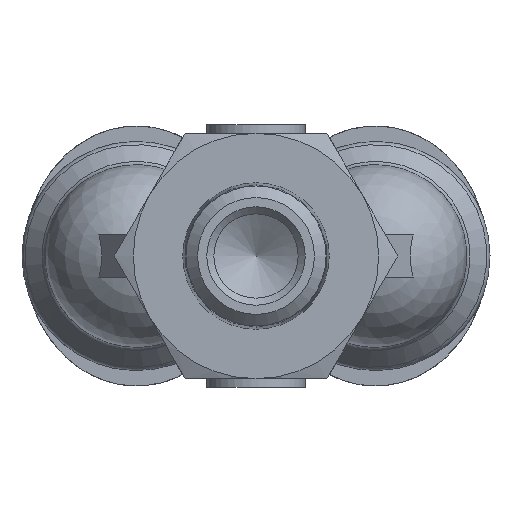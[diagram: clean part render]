
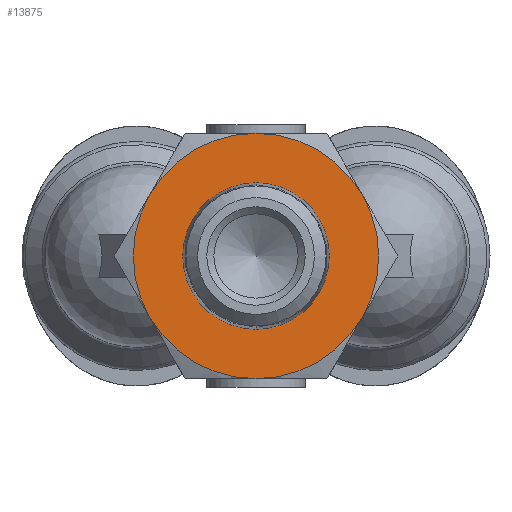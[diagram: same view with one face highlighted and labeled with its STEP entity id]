
A CAD part, front view. The second image highlights one B-rep face of the part: STEP entity #13875.
In plain terms, the highlighted planar face has unit normal (0, -1, 0).
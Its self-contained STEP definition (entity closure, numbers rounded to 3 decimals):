
#12604=CARTESIAN_POINT('',(5.208,8.0,0.0));
#12605=VERTEX_POINT('',#12604);
#12606=CARTESIAN_POINT('',(0.0,8.0,0.0));
#12607=DIRECTION('',(0.0,-1.0,0.0));
#12608=DIRECTION('',(1.0,0.0,0.0));
#12609=AXIS2_PLACEMENT_3D('',#12606,#12607,#12608);
#12610=CIRCLE('',#12609,5.208);
#12611=EDGE_CURVE('',#12605,#12605,#12610,.T.);
#12692=CARTESIAN_POINT('',(-4.366,8.0,-7.561));
#12693=VERTEX_POINT('',#12692);
#12707=CARTESIAN_POINT('',(4.366,8.0,-7.561));
#12708=VERTEX_POINT('',#12707);
#12722=CARTESIAN_POINT('',(0.0,8.,0.0));
#12723=DIRECTION('',(0.0,-1.0,0.0));
#12724=DIRECTION('',(0.0,0.0,1.0));
#12725=AXIS2_PLACEMENT_3D('',#12722,#12723,#12724);
#12726=CIRCLE('',#12725,8.731);
#12727=EDGE_CURVE('',#12693,#12708,#12726,.T.);
#12739=CARTESIAN_POINT('',(-8.731,8.0,0.));
#12740=VERTEX_POINT('',#12739);
#12767=CARTESIAN_POINT('',(0.0,8.,0.0));
#12768=DIRECTION('',(0.0,-1.0,0.0));
#12769=DIRECTION('',(0.0,0.0,1.0));
#12770=AXIS2_PLACEMENT_3D('',#12767,#12768,#12769);
#12771=CIRCLE('',#12770,8.731);
#12772=EDGE_CURVE('',#12740,#12693,#12771,.T.);
#12784=CARTESIAN_POINT('',(-4.366,8.0,7.561));
#12785=VERTEX_POINT('',#12784);
#12812=CARTESIAN_POINT('',(0.0,8.,0.0));
#12813=DIRECTION('',(0.0,-1.0,0.0));
#12814=DIRECTION('',(0.0,0.0,1.0));
#12815=AXIS2_PLACEMENT_3D('',#12812,#12813,#12814);
#12816=CIRCLE('',#12815,8.731);
#12817=EDGE_CURVE('',#12785,#12740,#12816,.T.);
#12842=CARTESIAN_POINT('',(4.366,8.0,7.561));
#12843=VERTEX_POINT('',#12842);
#12844=CARTESIAN_POINT('',(0.0,8.,0.0));
#12845=DIRECTION('',(0.0,-1.0,0.0));
#12846=DIRECTION('',(0.0,0.0,1.0));
#12847=AXIS2_PLACEMENT_3D('',#12844,#12845,#12846);
#12848=CIRCLE('',#12847,8.731);
#12849=EDGE_CURVE('',#12843,#12785,#12848,.T.);
#12887=CARTESIAN_POINT('',(8.731,8.0,0.));
#12888=VERTEX_POINT('',#12887);
#12889=CARTESIAN_POINT('',(0.0,8.,0.0));
#12890=DIRECTION('',(0.0,-1.0,0.0));
#12891=DIRECTION('',(0.0,0.0,1.0));
#12892=AXIS2_PLACEMENT_3D('',#12889,#12890,#12891);
#12893=CIRCLE('',#12892,8.731);
#12894=EDGE_CURVE('',#12888,#12843,#12893,.T.);
#12932=CARTESIAN_POINT('',(0.0,8.,0.0));
#12933=DIRECTION('',(0.0,-1.0,0.0));
#12934=DIRECTION('',(0.0,0.0,1.0));
#12935=AXIS2_PLACEMENT_3D('',#12932,#12933,#12934);
#12936=CIRCLE('',#12935,8.731);
#12937=EDGE_CURVE('',#12708,#12888,#12936,.T.);
#13859=CARTESIAN_POINT('',(0.,8.,0.));
#13860=DIRECTION('',(0.0,1.0,0.0));
#13861=DIRECTION('',(0.0,0.0,1.0));
#13862=AXIS2_PLACEMENT_3D('',#13859,#13860,#13861);
#13863=PLANE('',#13862);
#13864=ORIENTED_EDGE('',*,*,#12937,.T.);
#13865=ORIENTED_EDGE('',*,*,#12894,.T.);
#13866=ORIENTED_EDGE('',*,*,#12849,.T.);
#13867=ORIENTED_EDGE('',*,*,#12817,.T.);
#13868=ORIENTED_EDGE('',*,*,#12772,.T.);
#13869=ORIENTED_EDGE('',*,*,#12727,.T.);
#13870=EDGE_LOOP('',(#13864,#13865,#13866,#13867,#13868,#13869));
#13871=FACE_OUTER_BOUND('',#13870,.T.);
#13872=ORIENTED_EDGE('',*,*,#12611,.F.);
#13873=EDGE_LOOP('',(#13872));
#13874=FACE_BOUND('',#13873,.T.);
#13875=ADVANCED_FACE('',(#13871,#13874),#13863,.F.);
